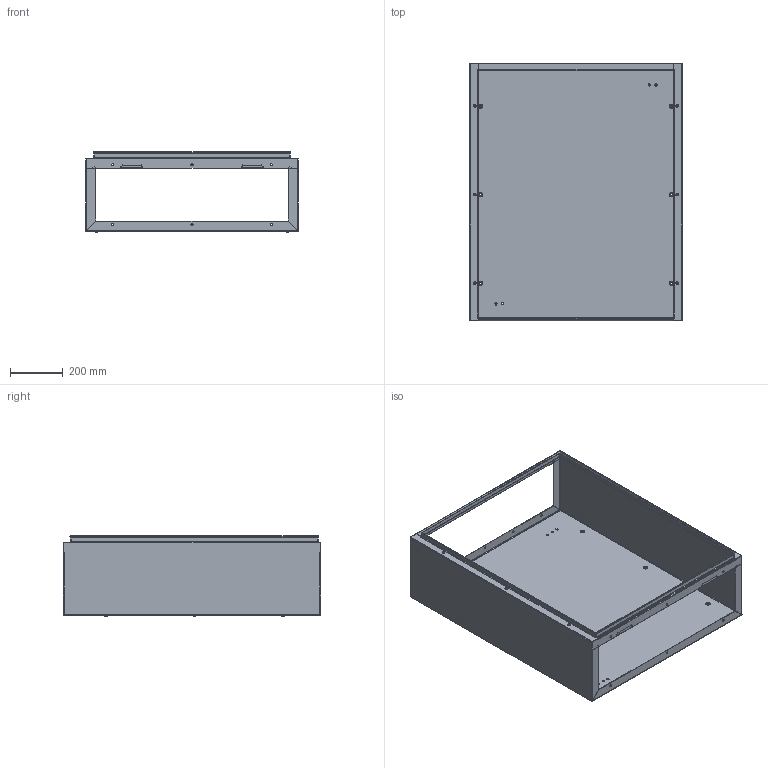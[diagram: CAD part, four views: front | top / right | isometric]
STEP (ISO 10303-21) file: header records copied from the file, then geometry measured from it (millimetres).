
FILE_DESCRIPTION (( 'STEP AP203' ), '1' );
FILE_NAME ('p2fc108.STEP', '2016-06-07T20:11:01', ( '' ), ( '' ), 'SwSTEP 2.0', 'SolidWorks 2014', '' );
FILE_SCHEMA (( 'CONFIG_CONTROL_DESIGN' ));
Length unit declared in the file: millimetre
Products named in the file (7): p2fc108; 89137996; 89134988; 89135013; 89134990; 89134987; 89137966
Assembly tree (7 placements, depth 4):
  p2fc108
    89137966
      89137996
      89134990
        89134988
        89135013  x2
      89134987
Bounding box: 804 x 973 x 302.98 mm (x, y, z)
Volume: 2975883.1 mm3; surface area: 3268982.9 mm2
Topology: 5 solids, 5 shells, 556 faces, 1300 edges, 780 vertices
Faces by surface type: plane 328, cylinder 128, torus 48, cone 36, bspline 16
Entity records: 16309 total; most frequent: CARTESIAN_POINT 3206, DIRECTION 2620, ORIENTED_EDGE 2488, EDGE_CURVE 1244, AXIS2_PLACEMENT_3D 898, VECTOR 824, LINE 824, VERTEX_POINT 748
